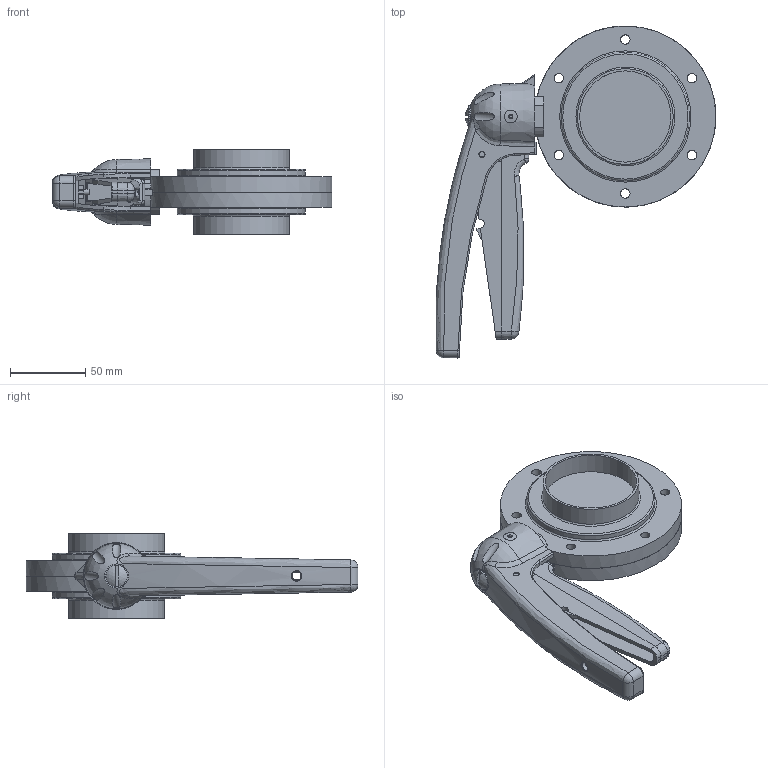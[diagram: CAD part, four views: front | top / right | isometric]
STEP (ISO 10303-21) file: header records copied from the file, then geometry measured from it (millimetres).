
FILE_DESCRIPTION(/* description */ ('VVF VALV.FARF.DN63.5 S/S EPD 316 LEVA 5POS.'),/* implementation_level */ '2;1');
FILE_NAME(/* name */ 'C:\_DED_PWS\GIOR-G\DB\B\EBA\BEBAAL212BEAA-00^SAGOMA.step',/* time_stamp */ '2020-03-03T16:20:38+01:00',/* author */ (''),/* organization */ (''),/* preprocessor_version */ 'ST-DEVELOPER v18',/* originating_system */ 'Autodesk Inventor 2020',/* authorisation */ '');
FILE_SCHEMA (('CONFIG_CONTROL_DESIGN'));
Length unit declared in the file: millimetre
Products named in the file (3): BEBAAL212BEAA; MEZZO-COR-DN063.5-SALD-INCHES; Maniglia-5-posizioni-nuova-versione finale 01-2008- 25 - - 65
Assembly tree (3 placements, depth 2):
  BEBAAL212BEAA
    MEZZO-COR-DN063.5-SALD-INCHES  x2
    Maniglia-5-posizioni-nuova-versione finale 01-2008- 25 - - 65
Bounding box: 185.39 x 220 x 56 mm (x, y, z)
Volume: 389736 mm3; surface area: 122693.9 mm2
Topology: 3 solids, 4 shells, 446 faces, 1197 edges, 776 vertices
Faces by surface type: plane 198, cylinder 106, bspline 81, cone 28, sphere 18, torus 15
Full cylindrical faces by diameter (mm): 4 x3, 6 x2, 6.2 x12, 6.5 x1, 10 x2, 13 x1, 14.5 x1, 60.5 x2, 63.5 x2, 85 x2, 120 x2
Entity records: 22638 total; most frequent: CARTESIAN_POINT 12062, ORIENTED_EDGE 2264, DIRECTION 1926, EDGE_CURVE 1132, VERTEX_POINT 729, AXIS2_PLACEMENT_3D 696, LINE 534, VECTOR 534
